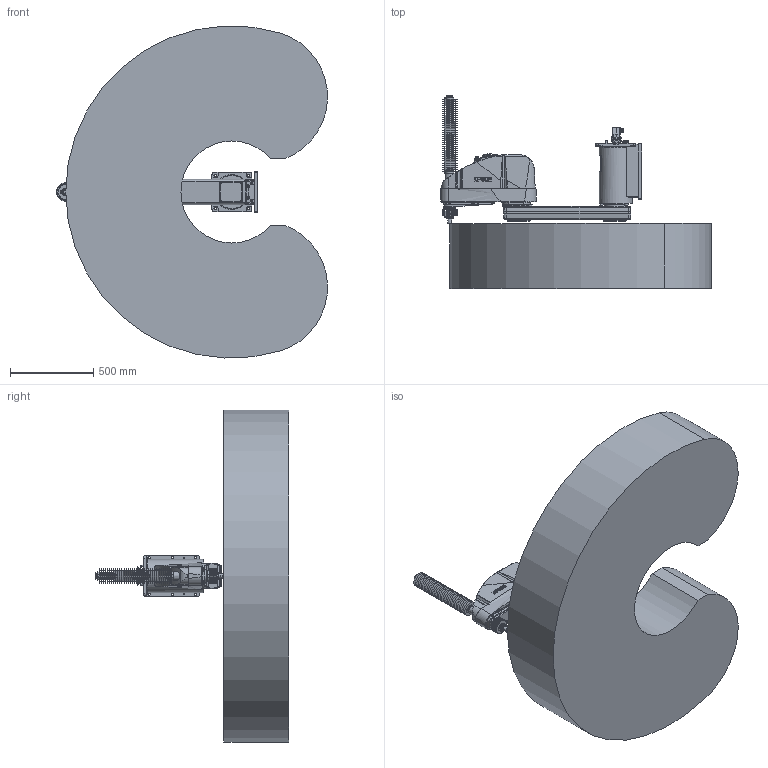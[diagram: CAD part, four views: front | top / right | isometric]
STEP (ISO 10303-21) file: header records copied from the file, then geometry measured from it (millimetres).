
FILE_DESCRIPTION( ( 'STEP AP214' ), '1' );
FILE_NAME( 'C:/Users/9607552/Desktop/GX20-BA04CW_langle.stp', '2023-08-01T09:48:41', ( '' ), ( '' ), ' ', 'PARTsolutions', ' ' );
FILE_SCHEMA( ( 'AUTOMOTIVE_DESIGN { 1 0 10303 214 1 1 1 1 }' ) );
Length unit declared in the file: millimetre
Products named in the file (7): GX20-BA04CWA-W; _Base cw; _Angle-B; _J1 Arm GX10-600 r/w; _J2 Arm GX10-c; _J3 Arm GX10-c (4); _GX10_20B-31_4
Assembly tree (6 placements, depth 2):
  GX20-BA04CWA-W
    _Base cw
    _Angle-B
    _J1 Arm GX10-600 r/w
    _J2 Arm GX10-c
    _J3 Arm GX10-c (4)
    _GX10_20B-31_4
Bounding box: 1630.39 x 1164 x 1998.16 mm (x, y, z)
Volume: 890535103.1 mm3; surface area: 9485227.9 mm2
Topology: 6 solids, 6 shells, 2582 faces, 6342 edges, 4107 vertices
Faces by surface type: plane 1313, cylinder 764, cone 400, torus 67, bspline 37, sphere 1
Full cylindrical faces by diameter (mm): 1.18 x55, 2.5 x2, 3 x32, 3.242 x10, 3.3 x9, 4 x2, 4.2 x2, 4.8 x4, 5.1 x4, 5.34 x4, 5.5 x12, 6 x4, 6.2 x2, 6.647 x2, 6.8 x2, 7 x19, 7.5 x1, 7.59 x4, 8 x4, 8.5 x2, 9 x4, 10 x32, 10.5 x3, 11 x14, 12 x7, 12.25 x1, 13 x8, 14 x20, 14.25 x1, 16 x7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
Entity records: 96808 total; most frequent: CARTESIAN_POINT 17758, DIRECTION 12155, ORIENTED_EDGE 11020, EDGE_CURVE 5510, AXIS2_PLACEMENT_3D 4649, VERTEX_POINT 4003, EDGE_LOOP 3690, FACE_OUTER_BOUND 2947
